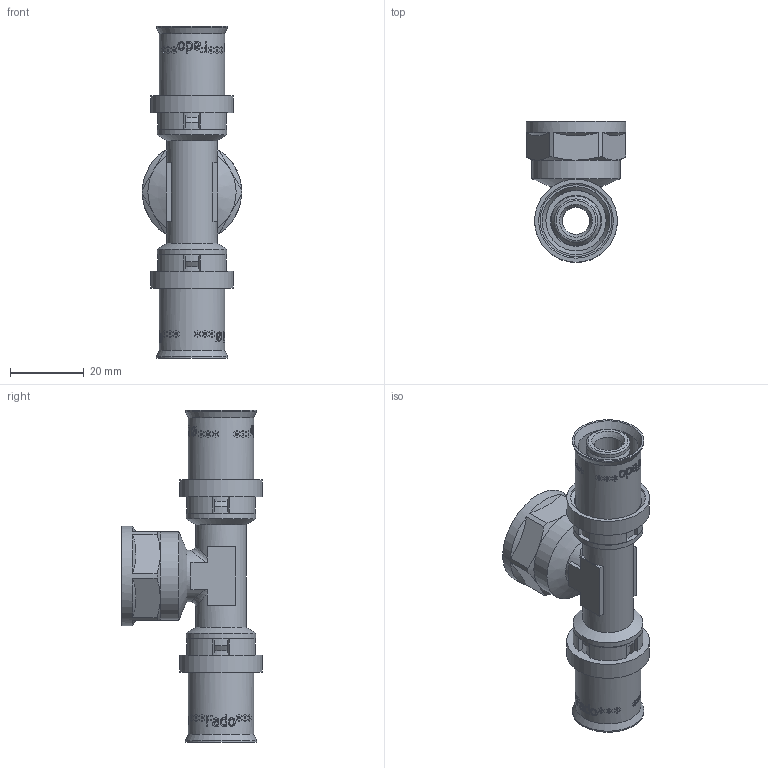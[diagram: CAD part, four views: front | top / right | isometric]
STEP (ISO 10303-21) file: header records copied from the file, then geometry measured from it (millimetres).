
FILE_DESCRIPTION(/* description */ (''),/* implementation_level */ '2;1');
FILE_NAME(/* name */ 'C:\Users\Doom\Desktop\Фадотех\Пресс\HDT11 02.12.2021\HDT11 02.12.2021.stp',/* time_stamp */ '2022-08-12T16:54:56+03:00',/* author */ ('Doom'),/* organization */ (''),/* preprocessor_version */ 'ST-DEVELOPER v18',/* originating_system */ 'Autodesk Inventor 2020',/* authorisation */ '');
FILE_SCHEMA (('AUTOMOTIVE_DESIGN { 1 0 10303 214 3 1 1 }'));
Length unit declared in the file: millimetre
Products named in the file (4): HDM01 Coupler 31.03.2020; HDT11 02.12.2021_1; 16 Model 18.12.2019; 16 Model 18.12.2019_1
Assembly tree (5 placements, depth 2):
  HDM01 Coupler 31.03.2020
    HDT11 02.12.2021_1
    16 Model 18.12.2019  x2
    16 Model 18.12.2019_1  x2
Bounding box: 27 x 38.25 x 90.2 mm (x, y, z)
Volume: 15365.4 mm3; surface area: 20941.6 mm2
Topology: 6 solids, 6 shells, 1058 faces, 2980 edges, 2008 vertices
Faces by surface type: bspline 582, plane 274, cylinder 147, cone 45, torus 10
Full cylindrical faces by diameter (mm): 7.5 x1, 9.5 x4, 10.3 x2, 11.8 x16, 12.5 x2, 12.6 x2, 13.5 x2, 13.7 x1, 13.8 x2, 14 x1, 16.4 x2, 17.8 x2, 18.21 x7, 18.3 x2, 19 x4, 19.2 x2, 19.5 x2, 20.3 x2, 20.9 x2, 22.5 x2, 24 x1, 27 x1
Entity records: 29440 total; most frequent: CARTESIAN_POINT 15022, ORIENTED_EDGE 3466, DIRECTION 2156, EDGE_CURVE 1733, VERTEX_POINT 1176, AXIS2_PLACEMENT_3D 745, EDGE_LOOP 685, LINE 666
